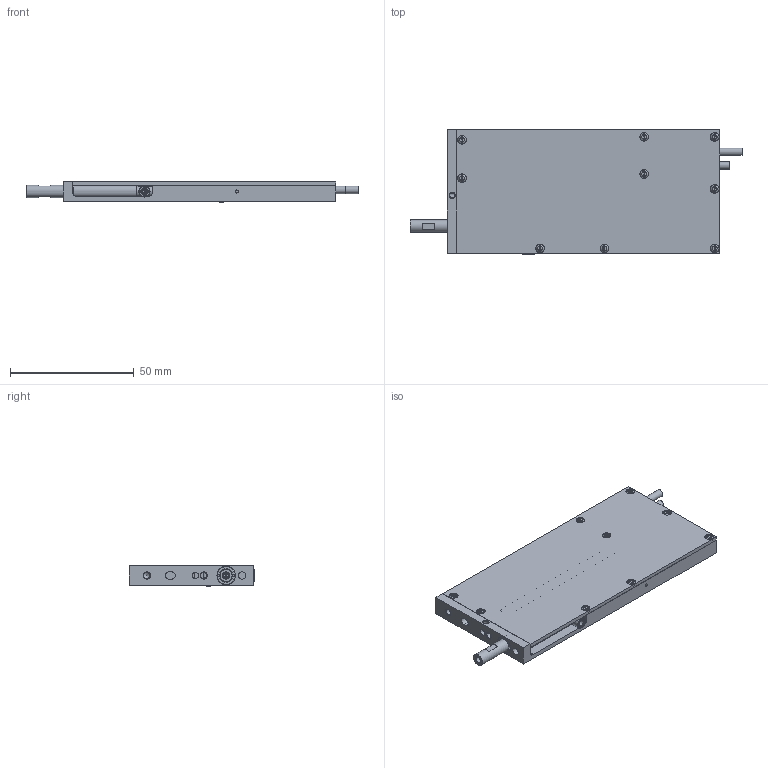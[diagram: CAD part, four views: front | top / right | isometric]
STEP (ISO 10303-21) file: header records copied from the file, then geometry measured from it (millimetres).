
FILE_DESCRIPTION((''),'2;1');
FILE_NAME('D:\SMAC-CAD\LCA\LCA8\LCA8-025\ASSY\LCA8-025-3D_A.stp','2013-09-24T09:35:42',('ToanVu'),(''),'Autodesk Inventor 2008','Autodesk Inventor 2008','');
FILE_SCHEMA(('AUTOMOTIVE_DESIGN { 1 0 10303 214 1 1 1 1 }'));
Length unit declared in the file: millimetre
Products named in the file (11): LCA8-025-3D_A; 900852-PIS-3D_B; 21561-02_A; 18567-01_B; LCA8-25COVER-3D; 23632-25_A; Slotted Pan Head Machine Screw - Metric M2x0.4 x 2; 18564-02_A; 11619-26_A; LCA8CAB-ADT; IS 6101 M1.6 x 2
Assembly tree (18 placements, depth 3):
  LCA8-025-3D_A
    900852-PIS-3D_B
      21561-02_A
    18567-01_B
    LCA8-25COVER-3D
      23632-25_A
    Slotted Pan Head Machine Screw - Metric M2x0.4 x 2
    18564-02_A
    11619-26_A
    LCA8CAB-ADT
    IS 6101 M1.6 x 2  x9
Bounding box: 134 x 50.5 x 8.41 mm (x, y, z)
Volume: 17205.9 mm3; surface area: 29179.7 mm2
Topology: 16 solids, 16 shells, 494 faces, 1189 edges, 776 vertices
Faces by surface type: plane 253, cylinder 108, bspline 81, cone 42, torus 10
Full cylindrical faces by diameter (mm): 1.41 x9, 1.6 x9, 2 x2, 2.9 x1, 3 x4, 3.6 x1, 4 x2, 4.5 x1, 5 x2, 6 x16, 6.5 x1, 7 x1, 7.4 x2
Entity records: 12460 total; most frequent: CARTESIAN_POINT 3435, DIRECTION 1794, ORIENTED_EDGE 1632, EDGE_CURVE 816, AXIS2_PLACEMENT_3D 668, VERTEX_POINT 603, EDGE_LOOP 601, VECTOR 458
